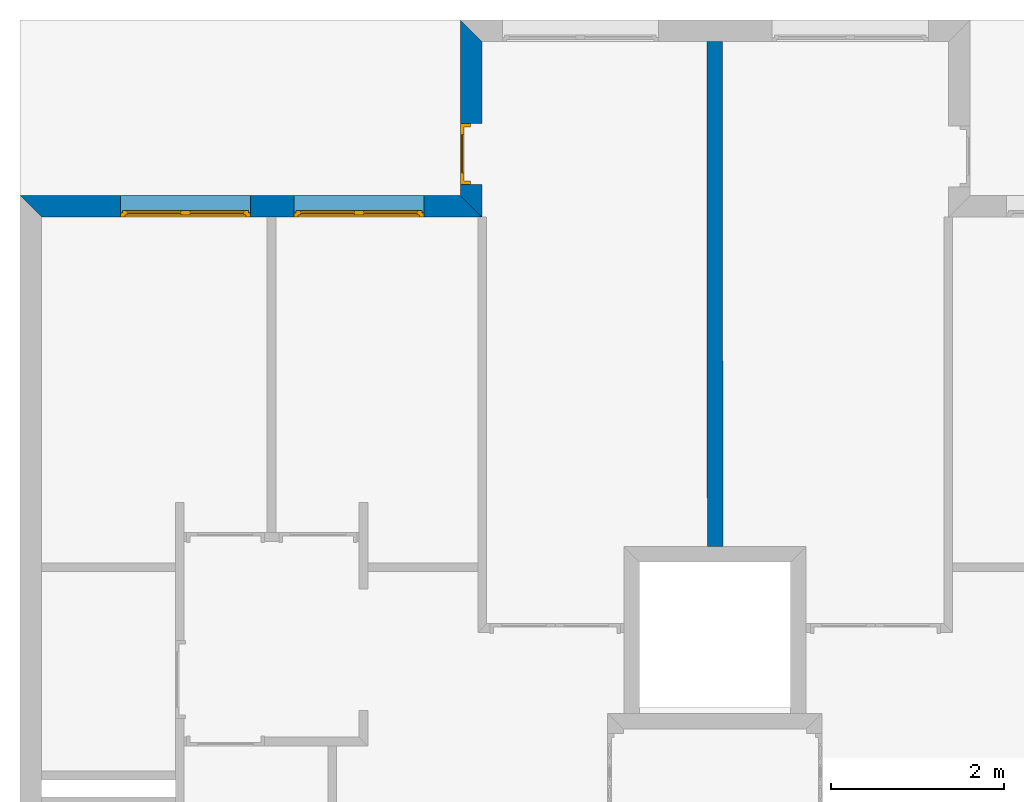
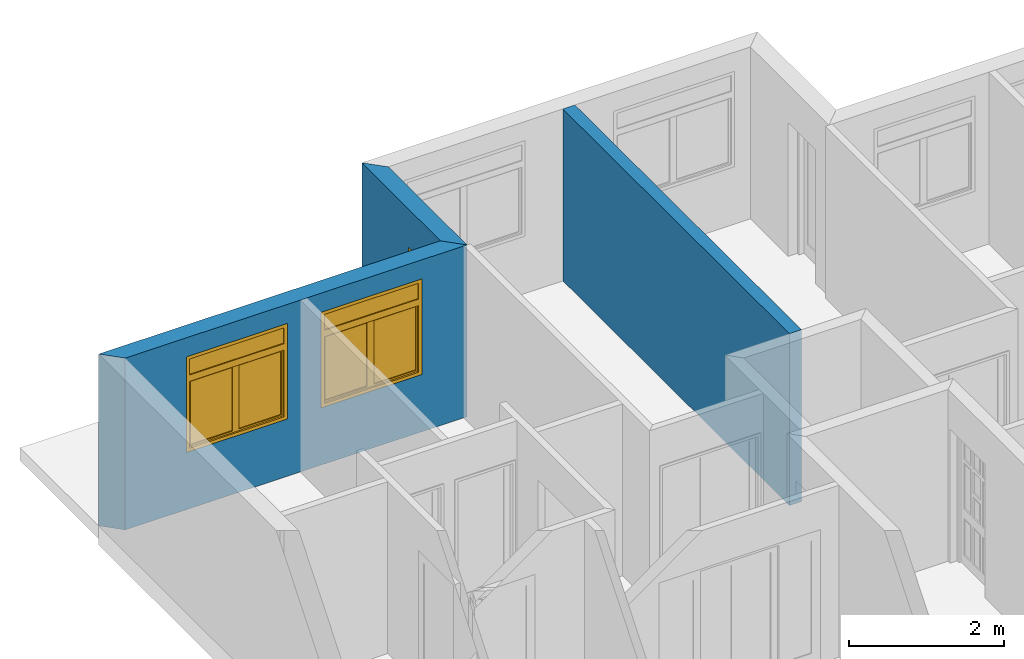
# One storey, part 10 of 13: 3 walls, 2 windows, 1 door, 3 openings.
"""IFC2X3 building model written with IfcOpenShell, lengths in metres."""

from ifc_helpers import new_model, entity, si_unit, converted_unit, direction, frame, frame_2d, origin_with_axes, place, context, project, spatial, polyline, rectangle, outline, extrude, faceted_brep, source, transform, mapped, material, layer, layer_set, layer_usage, type_object, element, fill, save


model = new_model("IFC2X3")

# Units and contexts
context_of_model = context(None, 3, precision=1e-05, world=origin_with_axes(), true_north=direction((6.123234e-17, 1.0)))
plan_context = context("Plan", 3, precision=1e-05, world=origin_with_axes(), true_north=direction((6.123234e-17, 1.0)))
model_context = context("Model", 3, precision=1e-05, world=origin_with_axes(), true_north=direction((6.123234e-17, 1.0)))
ifc_project = project(units=[si_unit("LENGTHUNIT", "METRE"), si_unit("AREAUNIT", "SQUARE_METRE"), si_unit("VOLUMEUNIT", "CUBIC_METRE"), converted_unit("PLANEANGLEUNIT", "DEGREE", entity("IfcPlaneAngleMeasure", 0.017453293), si_unit("PLANEANGLEUNIT", "RADIAN"), dimensions=[0, 0, 0, 0, 0, 0, 0]), si_unit("SOLIDANGLEUNIT", "STERADIAN"), si_unit("MASSUNIT", "GRAM"), si_unit("TIMEUNIT", "SECOND"), si_unit("THERMODYNAMICTEMPERATUREUNIT", "DEGREE_CELSIUS"), si_unit("LUMINOUSINTENSITYUNIT", "LUMEN")], contexts=[context_of_model, plan_context, model_context])

# Site, building, storey
site_placement = place(None, origin_with_axes())
site = spatial("IfcSite", under=ifc_project, at=site_placement, Name="Por defecto Sitio", CompositionType="ELEMENT")
building_placement = place(site_placement, origin_with_axes())
building = spatial("IfcBuilding", under=site, at=building_placement, Name="Por defecto Edificio", CompositionType="ELEMENT")
storey_placement = place(building_placement, frame((0.0, 0.0, 7.2), z_axis=(0.0, 0.0, 1.0), x_axis=(1.0, 0.0, 0.0)))
storey = spatial("IfcBuildingStorey", under=building, at=storey_placement, Name="Segunda", CompositionType="ELEMENT", Elevation=7.2)

# Wall, openings, windows
ifc_material = material(Name="Ladrillo común")
ifc_layer_1 = layer(ifc_material, 0.25, ventilated="UNKNOWN")
ifc_layer_set_1 = layer_set([ifc_layer_1], Name="Ladrillo común")
ifc_layer_usage_1 = layer_usage(ifc_layer_set_1, "AXIS2", "NEGATIVE", 0.0)
wall_type_1 = type_object("IfcWallType", Name="Ladrillo común", PredefinedType="NOTDEFINED")
wall_1_placement = place(storey_placement, frame((0.0, 13.449173, 0.0), z_axis=(0.0, 0.0, 1.0), x_axis=(1.0, 0.0, 0.0)))
wall_1 = element("IfcWallStandardCase", 1, at=wall_1_placement, inside=storey, type_object=wall_type_1, material=ifc_layer_usage_1, Name="Muro-012", context=context_of_model, shape_type="SweptSolid", body=[
    extrude(outline(polyline([(0.25, -0.25), (5.3281164, -0.25), (5.0781164, 0.0), (0.0, 0.0), (0.25, -0.25)])), origin_with_axes(), (0.0, 0.0, 1.0), 2.7),
])
opening_1_placement = place(wall_1_placement, frame((3.9080742, -0.25, 0.9), z_axis=(0.0, 0.0, 1.0), x_axis=(1.0, 0.0, 0.0)))
opening_1 = element("IfcOpeningElement", 2, at=opening_1_placement, cuts=wall_1, ObjectType="Opening", context=model_context, shape_type="SweptSolid", body=[
    extrude(rectangle(XDim=1.5, YDim=1.5, at=frame_2d((0.0, 0.75), x_axis=(-1.0, 0.0))), frame((0.0, 0.0, 0.0), z_axis=(0.0, 1.0, 0.0), x_axis=(-1.0, 0.0, 0.0)), (0.0, 0.0, 1.0), 0.25),
])
opening_2_placement = place(wall_1_placement, frame((1.9080742, -0.25, 0.9), z_axis=(0.0, 0.0, 1.0), x_axis=(1.0, 0.0, 0.0)))
opening_2 = element("IfcOpeningElement", 3, at=opening_2_placement, cuts=wall_1, ObjectType="Opening", context=model_context, shape_type="SweptSolid", body=[
    extrude(rectangle(XDim=1.5, YDim=1.5, at=frame_2d((0.0, 0.75), x_axis=(-1.0, 0.0))), frame((0.0, 0.0, 0.0), z_axis=(0.0, 1.0, 0.0), x_axis=(-1.0, 0.0, 0.0)), (0.0, 0.0, 1.0), 0.25),
])
window_style_1 = type_object("IfcWindowStyle", Name="V M Doble 12", ConstructionType="NOTDEFINED", OperationType="DOUBLE_PANEL_HORIZONTAL", ParameterTakesPrecedence=False, Sizeable=False)
shared_shape_1 = source(origin_with_axes(), model_context, "Body", "Brep", [
    faceted_brep([(1.475, 0.05, 0.05), (1.475, 0.05, 1.125), (1.45, 0.05, 1.125), (1.45, 0.05, 1.2), (1.45, 0.05, 1.45), (1.5, 0.05, 1.45), (1.5, 0.05, 0.05), (1.475, 0.025, 0.05), (1.475, 0.025, 1.125), (1.45, 0.025, 1.125), (1.45, 0.025, 1.1), (1.45, 0.0, 1.1), (1.45, 0.0, 1.2), (1.45, 0.0, 1.45), (1.5, 0.0, 1.45), (1.5, 0.0, 0.05), (1.45, 0.0, 0.05), (1.45, 0.025, 0.05)], [[[0, 1, 2, 3, 4, 5, 6]], [[1, 0, 7, 8]], [[9, 2, 1, 8]], [[9, 10, 11, 12, 3, 2]], [[3, 12, 13, 4]], [[4, 13, 14, 5]], [[5, 14, 15, 6]], [[7, 0, 6, 15, 16, 17]], [[10, 9, 8, 7, 17]], [[10, 17, 16, 11]], [[12, 11, 16, 15, 14, 13]]]),
    faceted_brep([(0.025, 0.05, 1.125), (0.025, 0.05, 0.05), (0.0, 0.05, 0.05), (0.0, 0.05, 1.45), (0.05, 0.05, 1.45), (0.05, 0.05, 1.2), (0.05, 0.05, 1.125), (0.025, 0.025, 1.125), (0.025, 0.025, 0.05), (0.05, 0.025, 0.05), (0.05, 0.0, 0.05), (0.0, 0.0, 0.05), (0.0, 0.0, 1.45), (0.05, 0.0, 1.45), (0.05, 0.0, 1.2), (0.05, 0.025, 1.125), (0.05, 0.0, 1.1), (0.05, 0.025, 1.1)], [[[0, 1, 2, 3, 4, 5, 6]], [[1, 0, 7, 8]], [[8, 9, 10, 11, 2, 1]], [[2, 11, 12, 3]], [[3, 12, 13, 4]], [[4, 13, 14, 5]], [[15, 6, 5, 14, 16, 17]], [[0, 6, 15, 7]], [[9, 8, 7, 15, 17]], [[9, 17, 16, 10]], [[11, 10, 16, 14, 13, 12]]]),
    faceted_brep([(1.45, 0.05, 1.125), (0.75, 0.05, 1.125), (0.05, 0.05, 1.125), (0.05, 0.05, 1.2), (1.45, 0.05, 1.2), (1.45, 0.025, 1.125), (0.75, 0.025, 1.125), (0.05, 0.025, 1.125), (0.05, 0.025, 1.1), (0.05, 0.0, 1.1), (0.05, 0.0, 1.2), (1.45, 0.0, 1.2), (1.45, 0.0, 1.1), (1.45, 0.025, 1.1)], [[[0, 1, 2, 3, 4]], [[1, 0, 5, 6]], [[7, 2, 1, 6]], [[7, 8, 9, 10, 3, 2]], [[3, 10, 11, 4]], [[5, 0, 4, 11, 12, 13]], [[8, 7, 6, 5, 13]], [[8, 13, 12, 9]], [[10, 9, 12, 11]]]),
    faceted_brep([(0.05, 0.025, 0.05), (0.025, 0.025, 0.05), (0.025, 0.05, 0.05), (0.0, 0.05, 0.05), (0.0, 0.0, 0.05), (0.05, 0.0, 0.05), (1.45, 0.025, 0.05), (1.475, 0.025, 0.05), (1.475, 0.025, 0.025), (0.75, 0.025, 0.025), (0.025, 0.025, 0.025), (0.025, 0.05, 0.025), (1.475, 0.05, 0.025), (1.475, 0.05, 0.05), (1.5, 0.05, 0.05), (1.5, 0.05, 0.0), (0.0, 0.05, 0.0), (0.75, 0.05, 0.025), (0.0, 0.0, 0.0), (1.5, 0.0, 0.05), (1.45, 0.0, 0.05), (1.5, 0.0, 0.0)], [[[0, 1, 2, 3, 4, 5]], [[1, 0, 6, 7, 8, 9, 10]], [[11, 2, 1, 10]], [[12, 13, 14, 15, 16, 3, 2, 11, 17]], [[16, 18, 4, 3]], [[19, 20, 5, 4, 18, 21]], [[6, 0, 5, 20]], [[7, 6, 20, 19, 14, 13]], [[7, 13, 12, 8]], [[12, 17, 9, 8]], [[17, 11, 10, 9]], [[14, 19, 21, 15]], [[15, 21, 18, 16]]]),
    faceted_brep([(0.05, 0.0, 1.45), (0.0, 0.0, 1.45), (0.0, 0.05, 1.45), (0.05, 0.05, 1.45), (1.45, 0.0, 1.45), (1.5, 0.0, 1.45), (1.5, 0.0, 1.5), (0.0, 0.0, 1.5), (0.0, 0.05, 1.5), (1.5, 0.05, 1.5), (1.5, 0.05, 1.45), (1.45, 0.05, 1.45)], [[[0, 1, 2, 3]], [[0, 4, 5, 6, 7, 1]], [[1, 7, 8, 2]], [[3, 2, 8, 9, 10, 11]], [[4, 0, 3, 11]], [[5, 4, 11, 10]], [[6, 5, 10, 9]], [[7, 6, 9, 8]]]),
    faceted_brep([(0.075, 0.025, 0.075), (0.075, 0.075, 0.075), (0.075, 0.075, 1.075), (0.075, 0.025, 1.075), (0.025, 0.025, 0.075), (0.025, 0.075, 0.075), (0.025, 0.075, 1.075), (0.025, 0.025, 1.075)], [[[0, 1, 2, 3]], [[4, 5, 1, 0]], [[1, 5, 6, 2]], [[3, 2, 6, 7]], [[0, 3, 7, 4]], [[7, 6, 5, 4]]]),
    faceted_brep([(0.75, 0.025, 0.075), (0.75, 0.075, 0.075), (0.75, 0.075, 1.075), (0.75, 0.025, 1.075), (0.7, 0.025, 0.075), (0.7, 0.075, 0.075), (0.7, 0.075, 1.075), (0.7, 0.025, 1.075)], [[[0, 1, 2, 3]], [[4, 5, 1, 0]], [[1, 5, 6, 2]], [[3, 2, 6, 7]], [[0, 3, 7, 4]], [[7, 6, 5, 4]]]),
    faceted_brep([(0.75, 0.025, 0.025), (0.75, 0.075, 0.025), (0.75, 0.075, 0.075), (0.75, 0.025, 0.075), (0.025, 0.025, 0.025), (0.025, 0.075, 0.025), (0.025, 0.075, 0.075), (0.075, 0.075, 0.075), (0.7, 0.075, 0.075), (0.7, 0.025, 0.075), (0.075, 0.025, 0.075), (0.025, 0.025, 0.075)], [[[0, 1, 2, 3]], [[4, 5, 1, 0]], [[1, 5, 6, 7, 8, 2]], [[3, 2, 8, 9]], [[0, 3, 9, 10, 11, 4]], [[11, 6, 5, 4]], [[10, 7, 6, 11]], [[9, 8, 7, 10]]]),
    faceted_brep([(0.025, 0.025, 1.125), (0.025, 0.075, 1.125), (0.025, 0.075, 1.075), (0.025, 0.025, 1.075), (0.75, 0.025, 1.125), (0.75, 0.075, 1.125), (0.75, 0.075, 1.075), (0.7, 0.075, 1.075), (0.075, 0.075, 1.075), (0.075, 0.025, 1.075), (0.7, 0.025, 1.075), (0.75, 0.025, 1.075)], [[[0, 1, 2, 3]], [[4, 5, 1, 0]], [[1, 5, 6, 7, 8, 2]], [[3, 2, 8, 9]], [[0, 3, 9, 10, 11, 4]], [[11, 6, 5, 4]], [[10, 7, 6, 11]], [[9, 8, 7, 10]]]),
    faceted_brep([(0.075, 0.04, 0.075), (0.075, 0.06, 0.075), (0.7, 0.06, 0.075), (0.7, 0.04, 0.075), (0.075, 0.04, 1.075), (0.075, 0.06, 1.075), (0.7, 0.06, 1.075), (0.7, 0.04, 1.075)], [[[0, 1, 2, 3]], [[4, 5, 1, 0]], [[1, 5, 6, 2]], [[3, 2, 6, 7]], [[0, 3, 7, 4]], [[7, 6, 5, 4]]]),
    faceted_brep([(0.8, 0.025, 0.075), (0.8, 0.075, 0.075), (0.8, 0.075, 1.075), (0.8, 0.025, 1.075), (0.75, 0.025, 0.075), (0.75, 0.075, 0.075), (0.75, 0.075, 1.075), (0.75, 0.025, 1.075)], [[[0, 1, 2, 3]], [[4, 5, 1, 0]], [[1, 5, 6, 2]], [[3, 2, 6, 7]], [[0, 3, 7, 4]], [[7, 6, 5, 4]]]),
    faceted_brep([(1.475, 0.025, 0.075), (1.475, 0.075, 0.075), (1.475, 0.075, 1.075), (1.475, 0.025, 1.075), (1.425, 0.025, 0.075), (1.425, 0.075, 0.075), (1.425, 0.075, 1.075), (1.425, 0.025, 1.075)], [[[0, 1, 2, 3]], [[4, 5, 1, 0]], [[1, 5, 6, 2]], [[3, 2, 6, 7]], [[0, 3, 7, 4]], [[7, 6, 5, 4]]]),
    faceted_brep([(1.475, 0.025, 0.025), (1.475, 0.075, 0.025), (1.475, 0.075, 0.075), (1.475, 0.025, 0.075), (0.75, 0.025, 0.025), (0.75, 0.075, 0.025), (0.75, 0.075, 0.075), (0.8, 0.075, 0.075), (1.425, 0.075, 0.075), (1.425, 0.025, 0.075), (0.8, 0.025, 0.075), (0.75, 0.025, 0.075)], [[[0, 1, 2, 3]], [[4, 5, 1, 0]], [[1, 5, 6, 7, 8, 2]], [[3, 2, 8, 9]], [[0, 3, 9, 10, 11, 4]], [[11, 6, 5, 4]], [[10, 7, 6, 11]], [[9, 8, 7, 10]]]),
    faceted_brep([(0.75, 0.025, 1.125), (0.75, 0.075, 1.125), (0.75, 0.075, 1.075), (0.75, 0.025, 1.075), (1.475, 0.025, 1.125), (1.475, 0.075, 1.125), (1.475, 0.075, 1.075), (1.425, 0.075, 1.075), (0.8, 0.075, 1.075), (0.8, 0.025, 1.075), (1.425, 0.025, 1.075), (1.475, 0.025, 1.075)], [[[0, 1, 2, 3]], [[4, 5, 1, 0]], [[1, 5, 6, 7, 8, 2]], [[3, 2, 8, 9]], [[0, 3, 9, 10, 11, 4]], [[11, 6, 5, 4]], [[10, 7, 6, 11]], [[9, 8, 7, 10]]]),
    faceted_brep([(0.8, 0.04, 0.075), (0.8, 0.06, 0.075), (1.425, 0.06, 0.075), (1.425, 0.04, 0.075), (0.8, 0.04, 1.075), (0.8, 0.06, 1.075), (1.425, 0.06, 1.075), (1.425, 0.04, 1.075)], [[[0, 1, 2, 3]], [[4, 5, 1, 0]], [[1, 5, 6, 2]], [[3, 2, 6, 7]], [[0, 3, 7, 4]], [[7, 6, 5, 4]]]),
    faceted_brep([(0.05, 0.015, 1.2), (0.05, 0.035, 1.2), (1.45, 0.035, 1.2), (1.45, 0.015, 1.2), (0.05, 0.015, 1.45), (0.05, 0.035, 1.45), (1.45, 0.035, 1.45), (1.45, 0.015, 1.45)], [[[0, 1, 2, 3]], [[4, 5, 1, 0]], [[1, 5, 6, 2]], [[3, 2, 6, 7]], [[0, 3, 7, 4]], [[7, 6, 5, 4]]]),
])
window_1_placement = place(opening_1_placement, frame((-0.75, 0.0, 0.0), z_axis=(0.0, 0.0, 1.0), x_axis=(1.0, 0.0, 0.0)))
window_1 = element("IfcWindow", 4, at=window_1_placement, inside=storey, type_object=window_style_1, Name="V12", OverallHeight=1.5, OverallWidth=1.5, context=model_context, shape_type="MappedRepresentation", body=[
    mapped(shared_shape_1, transform((0.0, 0.0, 0.0), scale=1.0)),
])
fill(opening_1, window_1)
window_style_2 = type_object("IfcWindowStyle", Name="V M Doble 12", ConstructionType="NOTDEFINED", OperationType="DOUBLE_PANEL_HORIZONTAL", ParameterTakesPrecedence=False, Sizeable=False)
window_2_placement = place(opening_2_placement, frame((-0.75, 0.0, 0.0), z_axis=(0.0, 0.0, 1.0), x_axis=(1.0, 0.0, 0.0)))
window_2 = element("IfcWindow", 5, at=window_2_placement, inside=storey, type_object=window_style_2, Name="V13", OverallHeight=1.5, OverallWidth=1.5, context=model_context, shape_type="MappedRepresentation", body=[
    mapped(shared_shape_1, transform((0.0, 0.0, 0.0), scale=1.0)),
])
fill(opening_2, window_2)

# Wall, opening, door
ifc_layer_usage_2 = layer_usage(ifc_layer_set_1, "AXIS2", "NEGATIVE", 0.0)
wall_2_placement = place(storey_placement, frame((5.0781164, 13.449173, 0.0), z_axis=(0.0, 0.0, 1.0), x_axis=(0.0, 1.0, 0.0)))
wall_2 = element("IfcWallStandardCase", 6, at=wall_2_placement, inside=storey, type_object=wall_type_1, material=ifc_layer_usage_2, Name="Muro-013", context=context_of_model, shape_type="SweptSolid", body=[
    extrude(outline(polyline([(-0.25, -0.25), (1.7734265, -0.25), (2.0234265, 0.0), (0.0, 0.0), (-0.25, -0.25)])), origin_with_axes(), (0.0, 0.0, 1.0), 2.7),
])
opening_3_placement = place(wall_2_placement, frame((0.47866866, -0.25, 0.0), z_axis=(0.0, 0.0, 1.0), x_axis=(1.0, 0.0, 0.0)))
opening_3 = element("IfcOpeningElement", 7, at=opening_3_placement, cuts=wall_2, ObjectType="Opening", context=model_context, shape_type="SweptSolid", body=[
    extrude(rectangle(XDim=0.7, YDim=2.1, at=frame_2d((0.0, 1.05), x_axis=(-1.0, 0.0))), frame((0.0, 0.0, 0.0), z_axis=(0.0, 1.0, 0.0), x_axis=(-1.0, 0.0, 0.0)), (0.0, 0.0, 1.0), 0.25),
])
door_style = type_object("IfcDoorStyle", Name="P1 12", ConstructionType="NOTDEFINED", OperationType="SINGLE_SWING_LEFT", ParameterTakesPrecedence=False, Sizeable=False)
shared_shape_2 = source(origin_with_axes(), model_context, "Body", "Brep", [
    faceted_brep([(0.66, 0.075, 0.0), (0.66, 0.0, 0.0), (0.66, 0.0, 2.06), (0.66, 0.075, 2.06), (0.672, 0.075, 0.0), (0.672, 0.115, 0.0), (0.7, 0.115, 0.0), (0.7, 0.0, 0.0), (0.7, 0.0, 2.06), (0.672, 0.075, 2.06), (0.7, 0.115, 2.06), (0.672, 0.115, 2.06)], [[[0, 1, 2, 3]], [[4, 5, 6, 7, 1, 0]], [[7, 8, 2, 1]], [[9, 3, 2, 8, 10, 11]], [[9, 4, 0, 3]], [[11, 5, 4, 9]], [[11, 10, 6, 5]], [[8, 7, 6, 10]]]),
    faceted_brep([(0.028, 0.075, 2.06), (0.028, 0.115, 2.06), (-1.4210855e-14, 0.115, 2.06), (-1.4210855e-14, 0.0, 2.06), (0.04, 0.0, 2.06), (0.04, 0.075, 2.06), (0.028, 0.075, 0.0), (0.028, 0.115, 0.0), (-1.4210855e-14, 0.115, 0.0), (0.0, 0.0, 0.0), (0.04, 0.0, 0.0), (0.04, 0.075, 0.0)], [[[0, 1, 2, 3, 4, 5]], [[0, 6, 7, 1]], [[7, 8, 2, 1]], [[9, 3, 2, 8]], [[10, 4, 3, 9]], [[5, 4, 10, 11]], [[5, 11, 6, 0]], [[6, 11, 10, 9, 8, 7]]]),
    faceted_brep([(0.672, 0.115, 2.072), (0.028, 0.115, 2.072), (0.028, 0.115, 2.06), (-1.4210855e-14, 0.115, 2.06), (-1.4210855e-14, 0.115, 2.1), (0.7, 0.115, 2.1), (0.7, 0.115, 2.06), (0.672, 0.115, 2.06), (0.672, 0.075, 2.072), (0.028, 0.075, 2.072), (0.028, 0.075, 2.06), (0.04, 0.075, 2.06), (0.04, 0.0, 2.06), (-1.4210855e-14, 0.0, 2.06), (-1.4210855e-14, 0.0, 2.1), (0.7, 0.0, 2.1), (0.7, 0.0, 2.06), (0.672, 0.075, 2.06), (0.66, 0.0, 2.06), (0.66, 0.075, 2.06)], [[[0, 1, 2, 3, 4, 5, 6, 7]], [[0, 8, 9, 1]], [[1, 9, 10, 2]], [[10, 11, 12, 13, 3, 2]], [[13, 14, 4, 3]], [[14, 15, 5, 4]], [[15, 16, 6, 5]], [[17, 7, 6, 16, 18, 19]], [[7, 17, 8, 0]], [[10, 9, 8, 17, 19, 11]], [[19, 18, 12, 11]], [[14, 13, 12, 18, 16, 15]]]),
    faceted_brep([(0.028, 0.115, 0.2), (0.128, 0.115, 0.2), (0.128, 0.075, 0.2), (0.028, 0.075, 0.2), (0.028, 0.115, 1.972), (0.128, 0.115, 1.972), (0.128, 0.075, 1.972), (0.028, 0.075, 1.972)], [[[0, 1, 2, 3]], [[0, 4, 5, 1]], [[1, 5, 6, 2]], [[3, 2, 6, 7]], [[4, 0, 3, 7]], [[5, 4, 7, 6]]]),
    faceted_brep([(0.672, 0.115, 0.2), (0.672, 0.115, 1.972), (0.672, 0.075, 1.972), (0.672, 0.075, 0.2), (0.572, 0.115, 0.2), (0.572, 0.115, 1.972), (0.572, 0.075, 1.972), (0.572, 0.075, 0.2)], [[[0, 1, 2, 3]], [[0, 4, 5, 1]], [[1, 5, 6, 2]], [[3, 2, 6, 7]], [[4, 0, 3, 7]], [[5, 4, 7, 6]]]),
    faceted_brep([(0.028, 0.115, 0.0), (0.672, 0.115, 0.0), (0.672, 0.075, 0.0), (0.028, 0.075, 0.0), (0.028, 0.115, 0.2), (0.128, 0.115, 0.2), (0.572, 0.115, 0.2), (0.672, 0.115, 0.2), (0.672, 0.075, 0.2), (0.572, 0.075, 0.2), (0.128, 0.075, 0.2), (0.028, 0.075, 0.2)], [[[0, 1, 2, 3]], [[0, 4, 5, 6, 7, 1]], [[1, 7, 8, 2]], [[3, 2, 8, 9, 10, 11]], [[4, 0, 3, 11]], [[5, 4, 11, 10]], [[6, 5, 10, 9]], [[7, 6, 9, 8]]]),
    faceted_brep([(0.028, 0.115, 2.072), (0.028, 0.115, 1.972), (0.028, 0.075, 1.972), (0.028, 0.075, 2.072), (0.672, 0.115, 2.072), (0.672, 0.115, 1.972), (0.572, 0.115, 1.972), (0.128, 0.115, 1.972), (0.128, 0.075, 1.972), (0.572, 0.075, 1.972), (0.672, 0.075, 1.972), (0.672, 0.075, 2.072)], [[[0, 1, 2, 3]], [[0, 4, 5, 6, 7, 1]], [[1, 7, 8, 2]], [[3, 2, 8, 9, 10, 11]], [[4, 0, 3, 11]], [[5, 4, 11, 10]], [[6, 5, 10, 9]], [[7, 6, 9, 8]]]),
    faceted_brep([(0.128, 0.101, 0.2), (0.572, 0.101, 0.2), (0.572, 0.089, 0.2), (0.128, 0.089, 0.2), (0.128, 0.101, 1.972), (0.572, 0.101, 1.972), (0.572, 0.089, 1.972), (0.128, 0.089, 1.972)], [[[0, 1, 2, 3]], [[0, 4, 5, 1]], [[1, 5, 6, 2]], [[3, 2, 6, 7]], [[4, 0, 3, 7]], [[5, 4, 7, 6]]]),
])
door_placement = place(opening_3_placement, frame((-0.35, 0.135, 0.0), z_axis=(0.0, 0.0, 1.0), x_axis=(1.0, 0.0, 0.0)))
door = element("IfcDoor", 8, at=door_placement, inside=storey, type_object=door_style, Name="P20", OverallHeight=2.1, OverallWidth=0.7, context=model_context, shape_type="MappedRepresentation", body=[
    mapped(shared_shape_2, transform((0.0, 0.0, 0.0), scale=1.0)),
])
fill(opening_3, door)

# Wall
ifc_layer_2 = layer(ifc_material, 0.18, ventilated="UNKNOWN")
ifc_layer_set_2 = layer_set([ifc_layer_2], Name="Ladrillo común")
ifc_layer_usage_3 = layer_usage(ifc_layer_set_2, "AXIS2", "NEGATIVE", 0.09)
wall_type_2 = type_object("IfcWallType", Name="Ladrillo común", PredefinedType="NOTDEFINED")
wall_3_placement = place(storey_placement, frame((8.014856, 9.4007615, 0.0), z_axis=(0.0, 0.0, 1.0), x_axis=(-0.00079976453, 0.99999968, 0.0)))
element("IfcWallStandardCase", 9, at=wall_3_placement, inside=storey, type_object=wall_type_2, material=ifc_layer_usage_3, Name="Muro-018", context=context_of_model, shape_type="SweptSolid", body=[
    extrude(outline(polyline([(-7.1978831e-05, -0.09), (5.8217675, -0.09), (5.8219114, 0.09), (7.1978831e-05, 0.09), (-7.1978831e-05, -0.09)])), origin_with_axes(), (0.0, 0.0, 1.0), 2.7),
])

save(model, "model.ifc")
